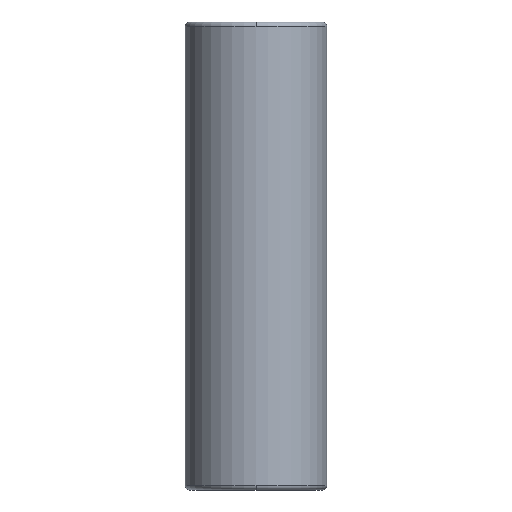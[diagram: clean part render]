
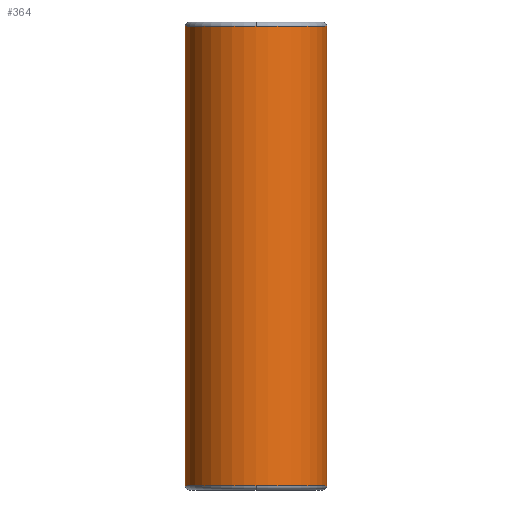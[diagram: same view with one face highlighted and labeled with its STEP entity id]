
A CAD part, front view. The second image highlights one B-rep face of the part: STEP entity #364.
In plain terms, the highlighted cylindrical face has radius 32.493 mm (diameter 64.986 mm), a partial arc.
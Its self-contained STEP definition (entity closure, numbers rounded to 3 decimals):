
#269=CARTESIAN_POINT('',(0.0,-32.493,213.));
#270=VERTEX_POINT('',#269);
#296=CARTESIAN_POINT('',(-32.493,0.,213.));
#297=VERTEX_POINT('',#296);
#305=CARTESIAN_POINT('',(0.0,0.,213.));
#306=DIRECTION('',(0.0,0.0,1.0));
#307=DIRECTION('',(1.0,0.0,0.0));
#308=AXIS2_PLACEMENT_3D('',#305,#306,#307);
#309=CIRCLE('',#308,32.493);
#310=EDGE_CURVE('',#297,#270,#309,.T.);
#315=CARTESIAN_POINT('',(0.0,0.,107.5));
#316=DIRECTION('',(0.0,0.,1.0));
#317=DIRECTION('',(1.0,0.0,0.0));
#318=AXIS2_PLACEMENT_3D('',#315,#316,#317);
#319=CYLINDRICAL_SURFACE('',#318,32.493);
#320=CARTESIAN_POINT('',(32.493,0.,213.));
#321=VERTEX_POINT('',#320);
#322=CARTESIAN_POINT('',(32.493,0.,2.));
#323=VERTEX_POINT('',#322);
#324=CARTESIAN_POINT('',(32.493,0.,213.));
#325=DIRECTION('',(0.0,0.0,-1.0));
#326=VECTOR('',#325,211.);
#327=LINE('',#324,#326);
#328=EDGE_CURVE('',#321,#323,#327,.T.);
#329=ORIENTED_EDGE('',*,*,#328,.F.);
#330=CARTESIAN_POINT('',(0.0,0.,213.));
#331=DIRECTION('',(0.0,0.0,1.0));
#332=DIRECTION('',(1.0,0.0,0.0));
#333=AXIS2_PLACEMENT_3D('',#330,#331,#332);
#334=CIRCLE('',#333,32.493);
#335=EDGE_CURVE('',#270,#321,#334,.T.);
#336=ORIENTED_EDGE('',*,*,#335,.F.);
#337=ORIENTED_EDGE('',*,*,#310,.F.);
#338=CARTESIAN_POINT('',(-32.493,0.,2.0));
#339=VERTEX_POINT('',#338);
#340=CARTESIAN_POINT('',(-32.493,0.,213.));
#341=DIRECTION('',(0.0,0.0,-1.0));
#342=VECTOR('',#341,211.);
#343=LINE('',#340,#342);
#344=EDGE_CURVE('',#297,#339,#343,.T.);
#345=ORIENTED_EDGE('',*,*,#344,.T.);
#346=CARTESIAN_POINT('',(0.0,-32.493,2.));
#347=VERTEX_POINT('',#346);
#348=CARTESIAN_POINT('',(0.0,0.,2.0));
#349=DIRECTION('',(0.0,0.0,1.0));
#350=DIRECTION('',(1.0,0.0,0.0));
#351=AXIS2_PLACEMENT_3D('',#348,#349,#350);
#352=CIRCLE('',#351,32.493);
#353=EDGE_CURVE('',#339,#347,#352,.T.);
#354=ORIENTED_EDGE('',*,*,#353,.T.);
#355=CARTESIAN_POINT('',(0.0,0.,2.0));
#356=DIRECTION('',(0.0,0.0,1.0));
#357=DIRECTION('',(1.0,0.0,0.0));
#358=AXIS2_PLACEMENT_3D('',#355,#356,#357);
#359=CIRCLE('',#358,32.493);
#360=EDGE_CURVE('',#347,#323,#359,.T.);
#361=ORIENTED_EDGE('',*,*,#360,.T.);
#362=EDGE_LOOP('',(#329,#336,#337,#345,#354,#361));
#363=FACE_OUTER_BOUND('',#362,.T.);
#364=ADVANCED_FACE('',(#363),#319,.T.);
